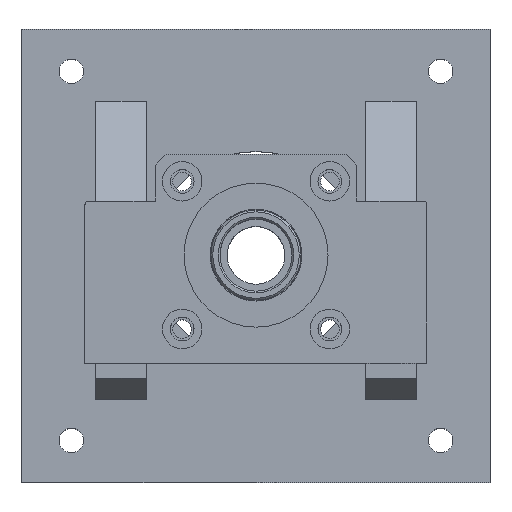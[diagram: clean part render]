
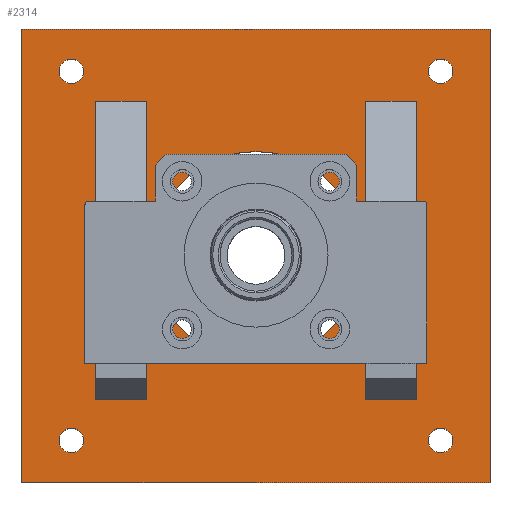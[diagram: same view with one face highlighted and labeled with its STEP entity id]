
A CAD part, top view. The second image highlights one B-rep face of the part: STEP entity #2314.
In plain terms, the highlighted planar face has unit normal (0, 0, 1).
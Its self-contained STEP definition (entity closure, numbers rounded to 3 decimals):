
#9=DIRECTION('',(0.,-1.,0.));
#10=VECTOR('',#9,83.);
#11=CARTESIAN_POINT('',(30.5,43.,119.));
#12=LINE('',#11,#10);
#318=DIRECTION('',(-1.,0.,0.));
#319=VECTOR('',#318,14.);
#320=CARTESIAN_POINT('',(44.5,43.,119.));
#321=LINE('',#320,#319);
#322=DIRECTION('',(0.,1.,0.));
#323=VECTOR('',#322,83.);
#324=CARTESIAN_POINT('',(44.5,-40.,119.));
#325=LINE('',#324,#323);
#342=CARTESIAN_POINT('',(51.265,51.265,119.));
#343=DIRECTION('',(0.,0.,-1.));
#344=DIRECTION('',(1.,0.,0.));
#345=AXIS2_PLACEMENT_3D('',#342,#343,#344);
#347=CARTESIAN_POINT('',(51.265,51.265,119.));
#348=DIRECTION('',(0.,0.,-1.));
#349=DIRECTION('',(-1.,0.,0.));
#350=AXIS2_PLACEMENT_3D('',#347,#348,#349);
#352=CARTESIAN_POINT('',(51.265,-51.265,119.));
#353=DIRECTION('',(0.,0.,-1.));
#354=DIRECTION('',(1.,0.,0.));
#355=AXIS2_PLACEMENT_3D('',#352,#353,#354);
#357=CARTESIAN_POINT('',(51.265,-51.265,119.));
#358=DIRECTION('',(0.,0.,-1.));
#359=DIRECTION('',(-1.,0.,0.));
#360=AXIS2_PLACEMENT_3D('',#357,#358,#359);
#362=CARTESIAN_POINT('',(-51.265,51.265,119.));
#363=DIRECTION('',(0.,0.,-1.));
#364=DIRECTION('',(1.,0.,0.));
#365=AXIS2_PLACEMENT_3D('',#362,#363,#364);
#367=CARTESIAN_POINT('',(-51.265,51.265,119.));
#368=DIRECTION('',(0.,0.,-1.));
#369=DIRECTION('',(-1.,0.,0.));
#370=AXIS2_PLACEMENT_3D('',#367,#368,#369);
#372=CARTESIAN_POINT('',(-51.265,-51.265,119.));
#373=DIRECTION('',(0.,0.,-1.));
#374=DIRECTION('',(1.,0.,0.));
#375=AXIS2_PLACEMENT_3D('',#372,#373,#374);
#377=CARTESIAN_POINT('',(-51.265,-51.265,119.));
#378=DIRECTION('',(0.,0.,-1.));
#379=DIRECTION('',(-1.,0.,0.));
#380=AXIS2_PLACEMENT_3D('',#377,#378,#379);
#382=DIRECTION('',(-1.,0.,0.));
#383=VECTOR('',#382,14.);
#384=CARTESIAN_POINT('',(-30.5,-40.,119.));
#385=LINE('',#384,#383);
#386=DIRECTION('',(1.,0.,0.));
#387=VECTOR('',#386,14.);
#388=CARTESIAN_POINT('',(-44.5,43.,119.));
#389=LINE('',#388,#387);
#390=CARTESIAN_POINT('',(0.,0.,119.));
#391=DIRECTION('',(0.,0.,-1.));
#392=DIRECTION('',(1.,0.,0.));
#393=AXIS2_PLACEMENT_3D('',#390,#391,#392);
#395=CARTESIAN_POINT('',(0.,0.,119.));
#396=DIRECTION('',(0.,0.,-1.));
#397=DIRECTION('',(-1.,0.,0.));
#398=AXIS2_PLACEMENT_3D('',#395,#396,#397);
#534=DIRECTION('',(-1.,0.,0.));
#535=VECTOR('',#534,130.);
#536=CARTESIAN_POINT('',(65.,-63.,119.));
#537=LINE('',#536,#535);
#542=DIRECTION('',(0.,-1.,0.));
#543=VECTOR('',#542,126.);
#544=CARTESIAN_POINT('',(65.,63.,119.));
#545=LINE('',#544,#543);
#550=DIRECTION('',(1.,0.,0.));
#551=VECTOR('',#550,130.);
#552=CARTESIAN_POINT('',(-65.,63.,119.));
#553=LINE('',#552,#551);
#562=DIRECTION('',(0.,1.,0.));
#563=VECTOR('',#562,126.);
#564=CARTESIAN_POINT('',(-65.,-63.,119.));
#565=LINE('',#564,#563);
#570=DIRECTION('',(1.,0.,0.));
#571=VECTOR('',#570,14.);
#572=CARTESIAN_POINT('',(30.5,-40.,119.));
#573=LINE('',#572,#571);
#590=DIRECTION('',(0.,-1.,0.));
#591=VECTOR('',#590,83.);
#592=CARTESIAN_POINT('',(-44.5,43.,119.));
#593=LINE('',#592,#591);
#610=DIRECTION('',(0.,1.,0.));
#611=VECTOR('',#610,83.);
#612=CARTESIAN_POINT('',(-30.5,-40.,119.));
#613=LINE('',#612,#611);
#1447=CARTESIAN_POINT('',(30.5,43.,119.));
#1448=VERTEX_POINT('',#1447);
#1449=CARTESIAN_POINT('',(30.5,-40.,119.));
#1450=VERTEX_POINT('',#1449);
#1451=CARTESIAN_POINT('',(44.5,-40.,119.));
#1452=CARTESIAN_POINT('',(44.5,43.,119.));
#1453=VERTEX_POINT('',#1451);
#1454=VERTEX_POINT('',#1452);
#1469=CARTESIAN_POINT('',(-30.5,-40.,119.));
#1470=VERTEX_POINT('',#1469);
#1471=CARTESIAN_POINT('',(-30.5,43.,119.));
#1472=VERTEX_POINT('',#1471);
#1480=CARTESIAN_POINT('',(-44.5,43.,119.));
#1482=VERTEX_POINT('',#1480);
#1483=CARTESIAN_POINT('',(-44.5,-40.,119.));
#1484=VERTEX_POINT('',#1483);
#1527=CARTESIAN_POINT('',(65.,-63.,119.));
#1528=CARTESIAN_POINT('',(-65.,-63.,119.));
#1529=VERTEX_POINT('',#1527);
#1530=VERTEX_POINT('',#1528);
#1531=CARTESIAN_POINT('',(65.,63.,119.));
#1532=VERTEX_POINT('',#1531);
#1533=CARTESIAN_POINT('',(-65.,63.,119.));
#1534=VERTEX_POINT('',#1533);
#1619=CARTESIAN_POINT('',(-29.,0.,119.));
#1621=VERTEX_POINT('',#1619);
#1623=CARTESIAN_POINT('',(29.,0.,119.));
#1625=VERTEX_POINT('',#1623);
#1834=CARTESIAN_POINT('',(-47.865,-51.265,119.));
#1836=VERTEX_POINT('',#1834);
#1838=CARTESIAN_POINT('',(-54.665,-51.265,119.));
#1840=VERTEX_POINT('',#1838);
#1842=CARTESIAN_POINT('',(-47.865,51.265,119.));
#1844=VERTEX_POINT('',#1842);
#1846=CARTESIAN_POINT('',(-54.665,51.265,119.));
#1848=VERTEX_POINT('',#1846);
#1850=CARTESIAN_POINT('',(54.665,-51.265,119.));
#1852=VERTEX_POINT('',#1850);
#1854=CARTESIAN_POINT('',(47.865,-51.265,119.));
#1856=VERTEX_POINT('',#1854);
#1858=CARTESIAN_POINT('',(54.665,51.265,119.));
#1860=VERTEX_POINT('',#1858);
#1862=CARTESIAN_POINT('',(47.865,51.265,119.));
#1864=VERTEX_POINT('',#1862);
#2252=CARTESIAN_POINT('',(0.,0.,119.));
#2253=DIRECTION('',(0.,0.,1.));
#2254=DIRECTION('',(1.,0.,0.));
#2255=AXIS2_PLACEMENT_3D('',#2252,#2253,#2254);
#2256=PLANE('',#2255);
#2258=ORIENTED_EDGE('',*,*,#2257,.T.);
#2260=ORIENTED_EDGE('',*,*,#2259,.T.);
#2262=ORIENTED_EDGE('',*,*,#2261,.T.);
#2264=ORIENTED_EDGE('',*,*,#2263,.T.);
#2265=EDGE_LOOP('',(#2258,#2260,#2262,#2264));
#2266=FACE_OUTER_BOUND('',#2265,.F.);
#2268=ORIENTED_EDGE('',*,*,#2267,.F.);
#2270=ORIENTED_EDGE('',*,*,#2269,.F.);
#2271=EDGE_LOOP('',(#2268,#2270));
#2272=FACE_BOUND('',#2271,.F.);
#2274=ORIENTED_EDGE('',*,*,#2273,.F.);
#2276=ORIENTED_EDGE('',*,*,#2275,.F.);
#2277=EDGE_LOOP('',(#2274,#2276));
#2278=FACE_BOUND('',#2277,.F.);
#2280=ORIENTED_EDGE('',*,*,#2279,.F.);
#2282=ORIENTED_EDGE('',*,*,#2281,.F.);
#2283=EDGE_LOOP('',(#2280,#2282));
#2284=FACE_BOUND('',#2283,.F.);
#2285=ORIENTED_EDGE('',*,*,#2229,.T.);
#2286=ORIENTED_EDGE('',*,*,#1886,.T.);
#2288=ORIENTED_EDGE('',*,*,#2287,.T.);
#2289=ORIENTED_EDGE('',*,*,#2239,.T.);
#2290=EDGE_LOOP('',(#2285,#2286,#2288,#2289));
#2291=FACE_BOUND('',#2290,.F.);
#2293=ORIENTED_EDGE('',*,*,#2292,.T.);
#2295=ORIENTED_EDGE('',*,*,#2294,.F.);
#2297=ORIENTED_EDGE('',*,*,#2296,.T.);
#2299=ORIENTED_EDGE('',*,*,#2298,.F.);
#2300=EDGE_LOOP('',(#2293,#2295,#2297,#2299));
#2301=FACE_BOUND('',#2300,.F.);
#2303=ORIENTED_EDGE('',*,*,#2302,.F.);
#2305=ORIENTED_EDGE('',*,*,#2304,.F.);
#2306=EDGE_LOOP('',(#2303,#2305));
#2307=FACE_BOUND('',#2306,.F.);
#2309=ORIENTED_EDGE('',*,*,#2308,.F.);
#2311=ORIENTED_EDGE('',*,*,#2310,.F.);
#2312=EDGE_LOOP('',(#2309,#2311));
#2313=FACE_BOUND('',#2312,.F.);
#346=CIRCLE('',#345,3.4);
#351=CIRCLE('',#350,3.4);
#356=CIRCLE('',#355,3.4);
#361=CIRCLE('',#360,3.4);
#366=CIRCLE('',#365,3.4);
#371=CIRCLE('',#370,3.4);
#376=CIRCLE('',#375,3.4);
#381=CIRCLE('',#380,3.4);
#394=CIRCLE('',#393,29.);
#399=CIRCLE('',#398,29.);
#1886=EDGE_CURVE('',#1448,#1450,#12,.T.);
#2229=EDGE_CURVE('',#1454,#1448,#321,.T.);
#2239=EDGE_CURVE('',#1453,#1454,#325,.T.);
#2257=EDGE_CURVE('',#1529,#1530,#537,.T.);
#2259=EDGE_CURVE('',#1530,#1534,#565,.T.);
#2261=EDGE_CURVE('',#1534,#1532,#553,.T.);
#2263=EDGE_CURVE('',#1532,#1529,#545,.T.);
#2267=EDGE_CURVE('',#1852,#1856,#356,.T.);
#2269=EDGE_CURVE('',#1856,#1852,#361,.T.);
#2273=EDGE_CURVE('',#1844,#1848,#366,.T.);
#2275=EDGE_CURVE('',#1848,#1844,#371,.T.);
#2279=EDGE_CURVE('',#1836,#1840,#376,.T.);
#2281=EDGE_CURVE('',#1840,#1836,#381,.T.);
#2287=EDGE_CURVE('',#1450,#1453,#573,.T.);
#2292=EDGE_CURVE('',#1482,#1484,#593,.T.);
#2294=EDGE_CURVE('',#1470,#1484,#385,.T.);
#2296=EDGE_CURVE('',#1470,#1472,#613,.T.);
#2298=EDGE_CURVE('',#1482,#1472,#389,.T.);
#2302=EDGE_CURVE('',#1625,#1621,#394,.T.);
#2304=EDGE_CURVE('',#1621,#1625,#399,.T.);
#2308=EDGE_CURVE('',#1860,#1864,#346,.T.);
#2310=EDGE_CURVE('',#1864,#1860,#351,.T.);
#2314=ADVANCED_FACE('',(#2266,#2272,#2278,#2284,#2291,#2301,#2307,#2313),#2256,
.T.);
